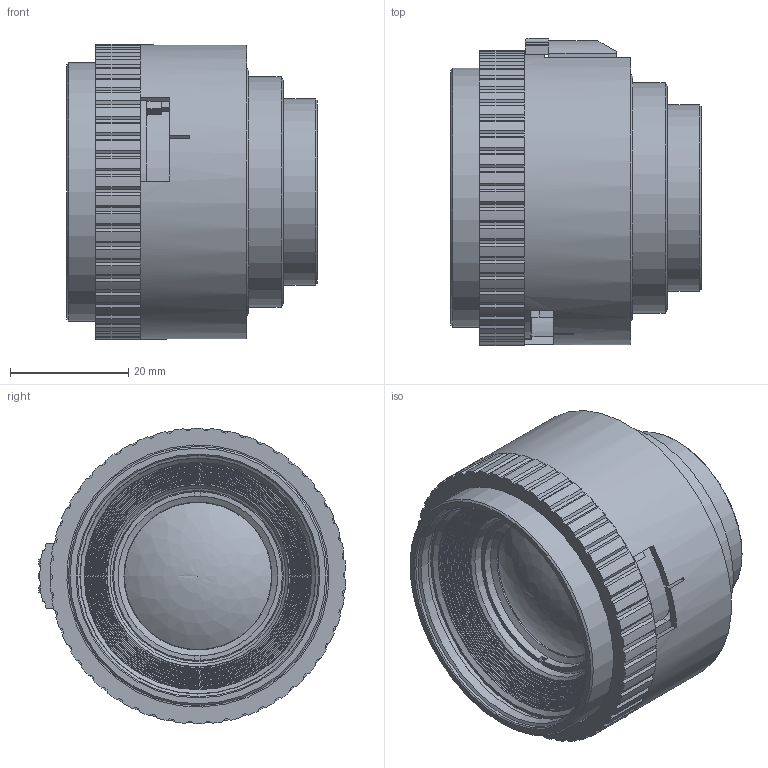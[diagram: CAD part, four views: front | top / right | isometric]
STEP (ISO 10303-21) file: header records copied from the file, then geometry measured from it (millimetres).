
FILE_DESCRIPTION(/* description */ (''),/* implementation_level */ '2;1');
FILE_NAME(/* name */ '0701-394-000-40_AP',/* time_stamp */ '2009-08-04T08:44:16+02:00',/* author */ (''),/* organization */ (''),/* preprocessor_version */ 'ST-DEVELOPER v9',/* originating_system */ 'UGS - NX 4.0',/* authorisation */ '');
FILE_SCHEMA (('AUTOMOTIVE_DESIGN { 1 0 10303 214 1 1 1 1 }'));
Length unit declared in the file: millimetre
Products named in the file (1): pant1ED2u9qd
Bounding box: 42.29 x 51.99 x 50 mm (x, y, z)
Volume: 49429.3 mm3; surface area: 24884.7 mm2
Topology: 1 solids, 6 shells, 524 faces, 1324 edges, 837 vertices
Faces by surface type: plane 348, cylinder 125, cone 30, torus 19, revolution 2
Full cylindrical faces by diameter (mm): 23 x1, 25 x1, 26 x1, 27 x1, 27.386 x1, 28 x1, 28.2 x2, 28.5 x1, 28.886 x1, 29.7 x3, 31.3 x1, 31.5 x1, 31.598 x1, 32.446 x1, 33.295 x1, 34.143 x1, 34.992 x1, 35.6 x1, 35.84 x1, 36.689 x1, 37 x1, 37.2 x2, 37.459 x2, 37.537 x1, 38.386 x1, 39 x2, 39.7 x1, 39.8 x2, 39.887 x1, 40.2 x1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
Entity records: 18776 total; most frequent: CARTESIAN_POINT 2710, DIRECTION 2639, ORIENTED_EDGE 2412, EDGE_CURVE 1206, AXIS2_PLACEMENT_3D 928, VERTEX_POINT 813, LINE 781, VECTOR 781
